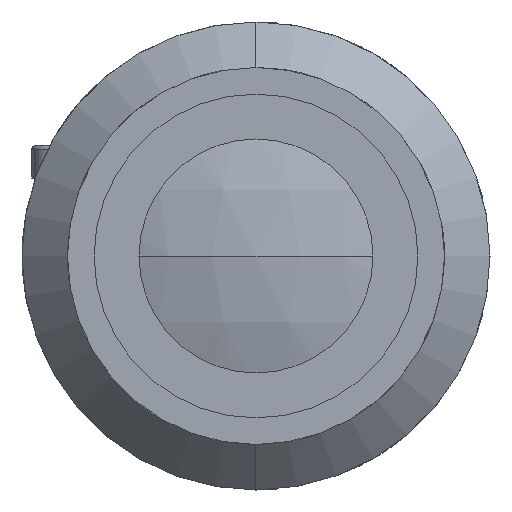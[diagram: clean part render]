
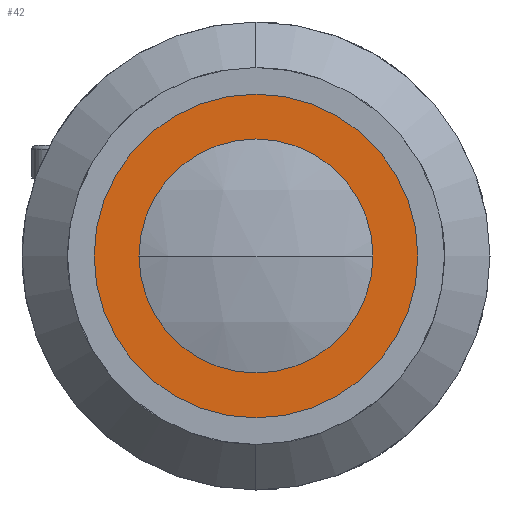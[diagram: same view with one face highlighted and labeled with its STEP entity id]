
A CAD part, left-side view. The second image highlights one B-rep face of the part: STEP entity #42.
In plain terms, the highlighted planar face has unit normal (-1, 0, 0).
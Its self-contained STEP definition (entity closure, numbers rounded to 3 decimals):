
#42 = ADVANCED_FACE ( 'NONE', ( #15312, #5711 ), #7383, .F. ) ;
#718 = DIRECTION ( 'NONE',  ( -1., 0., 0. ) ) ;
#878 = AXIS2_PLACEMENT_3D ( 'NONE', #7258, #16002, #8512 ) ;
#1103 = DIRECTION ( 'NONE',  ( 1., 0., 0. ) ) ;
#1155 = CIRCLE ( 'NONE', #3714, 9. ) ;
#1965 = VERTEX_POINT ( 'NONE', #11628 ) ;
#2366 = EDGE_LOOP ( 'NONE', ( #9325, #14892 ) ) ;
#3250 = DIRECTION ( 'NONE',  ( -1., 0., 0. ) ) ;
#3401 = DIRECTION ( 'NONE',  ( -1., 0., 0. ) ) ;
#3714 = AXIS2_PLACEMENT_3D ( 'NONE', #10797, #3250, #12050 ) ;
#4180 = CARTESIAN_POINT ( 'NONE',  ( 3.5, 0., -9. ) ) ;
#4481 = CIRCLE ( 'NONE', #15326, 13.2 ) ;
#5711 = FACE_OUTER_BOUND ( 'NONE', #8795, .T. ) ;
#6155 = ORIENTED_EDGE ( 'NONE', *, *, #13790, .T. ) ;
#7258 = CARTESIAN_POINT ( 'NONE',  ( 3.5, 0., 0. ) ) ;
#7337 = VERTEX_POINT ( 'NONE', #13086 ) ;
#7383 = PLANE ( 'NONE',  #15758 ) ;
#8245 = CARTESIAN_POINT ( 'NONE',  ( 3.5, 0., 0. ) ) ;
#8499 = EDGE_CURVE ( 'NONE', #14987, #1965, #9223, .T. ) ;
#8512 = DIRECTION ( 'NONE',  ( 0., 0., 1. ) ) ;
#8633 = CARTESIAN_POINT ( 'NONE',  ( 3.5, 13.2, 0. ) ) ;
#8795 = EDGE_LOOP ( 'NONE', ( #6155, #14236 ) ) ;
#8827 = CIRCLE ( 'NONE', #878, 9. ) ;
#9223 = CIRCLE ( 'NONE', #13594, 13.2 ) ;
#9237 = EDGE_CURVE ( 'NONE', #7337, #11146, #1155, .T. ) ;
#9325 = ORIENTED_EDGE ( 'NONE', *, *, #9237, .F. ) ;
#9504 = DIRECTION ( 'NONE',  ( 0., 0., 1. ) ) ;
#9744 = EDGE_CURVE ( 'NONE', #11146, #7337, #8827, .T. ) ;
#9897 = DIRECTION ( 'NONE',  ( 0., 0., -1. ) ) ;
#10632 = CARTESIAN_POINT ( 'NONE',  ( 3.5, 0., -13.2 ) ) ;
#10797 = CARTESIAN_POINT ( 'NONE',  ( 3.5, 0., 0. ) ) ;
#10935 = CARTESIAN_POINT ( 'NONE',  ( 3.5, 0., 0. ) ) ;
#11146 = VERTEX_POINT ( 'NONE', #4180 ) ;
#11628 = CARTESIAN_POINT ( 'NONE',  ( 3.5, 0., 13.2 ) ) ;
#12050 = DIRECTION ( 'NONE',  ( 0., 0., 1. ) ) ;
#12192 = DIRECTION ( 'NONE',  ( 0., 0., 1. ) ) ;
#13086 = CARTESIAN_POINT ( 'NONE',  ( 3.5, 0., 9. ) ) ;
#13594 = AXIS2_PLACEMENT_3D ( 'NONE', #8245, #718, #9504 ) ;
#13790 = EDGE_CURVE ( 'NONE', #1965, #14987, #4481, .T. ) ;
#14236 = ORIENTED_EDGE ( 'NONE', *, *, #8499, .T. ) ;
#14892 = ORIENTED_EDGE ( 'NONE', *, *, #9744, .F. ) ;
#14987 = VERTEX_POINT ( 'NONE', #10632 ) ;
#15312 = FACE_BOUND ( 'NONE', #2366, .T. ) ;
#15326 = AXIS2_PLACEMENT_3D ( 'NONE', #10935, #3401, #12192 ) ;
#15758 = AXIS2_PLACEMENT_3D ( 'NONE', #8633, #1103, #9897 ) ;
#16002 = DIRECTION ( 'NONE',  ( -1., 0., 0. ) ) ;
